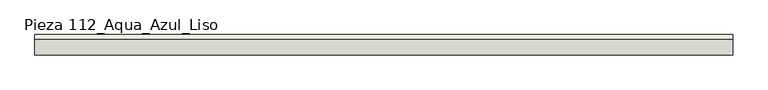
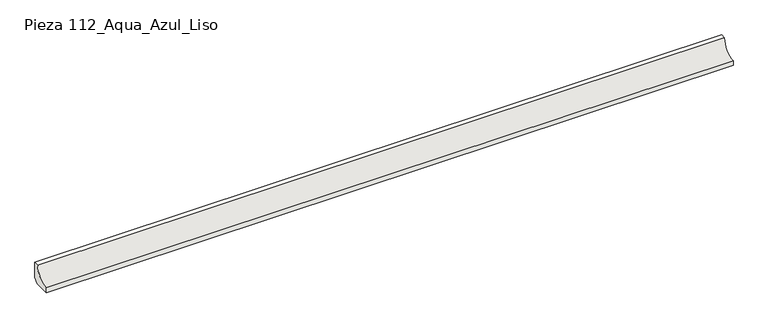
"""IFC4 building model written with IfcOpenShell, lengths in millimetres: slab geometry, ROSA GRES_112 : Pieza 112_Aqua_Azul_Liso."""

import ifcopenshell
import ifcopenshell.guid

model = None  # the IFC model being written
_history = None  # IfcOwnerHistory: only IFC2X3 demands one
_inside = {}  # id of a spatial element -> (the spatial element, [elements in it])
_under = {}  # id of a project, library or spatial element -> (it, [spatial elements below it])
_declared = {}  # id of a project -> (the project, [libraries it declares])
_typed = {}  # id of a type object -> (the type object, [elements of that type])
_made_of = {}  # id of a material, layer set ... -> (it, [elements and type objects made of it])


def new_model(schema):
    """Start an empty IFC model of exactly this schema.

    Asked for "IFC4X3", IfcOpenShell would pick the latest addendum, in which some entities
    have other attributes; the version numbers below select the first issue.
    IFC2X3 requires an IfcOwnerHistory on every rooted entity: one is made here for all.
    """
    global model, _history
    if schema == "IFC4X3":
        model = ifcopenshell.file(schema_version=(4, 3, 0, 0))
    else:
        model = ifcopenshell.file(schema=schema)
    _inside.clear()
    _under.clear()
    _declared.clear()
    _typed.clear()
    _made_of.clear()
    _history = None
    if model.schema == "IFC2X3":
        org = make("IfcOrganization", Name="unknown")
        user = make(
            "IfcPersonAndOrganization",
            ThePerson=make("IfcPerson", FamilyName="unknown"),
            TheOrganization=org,
        )
        app = make(
            "IfcApplication",
            ApplicationDeveloper=org,
            Version="unknown",
            ApplicationFullName="unknown",
            ApplicationIdentifier="unknown",
        )
        _history = make(
            "IfcOwnerHistory",
            OwningUser=user,
            OwningApplication=app,
            ChangeAction="ADDED",
            CreationDate=0,
        )
    return model


def make(cls, **values):
    """One entity of the class cls with the attributes given. An attribute that is None is left unset."""
    return model.create_entity(
        cls, **{name: value for name, value in values.items() if value is not None}
    )


def rooted(cls, **values):
    """An entity with a GlobalId (a new one), such as an element, a storey or a relation."""
    return make(cls, GlobalId=ifcopenshell.guid.new(), OwnerHistory=_history, **values)


def si_unit(unit_type, name, prefix=None):
    """IfcSIUnit, for example si_unit("LENGTHUNIT", "METRE", prefix="MILLI")."""
    return make("IfcSIUnit", UnitType=unit_type, Prefix=prefix, Name=name)


def assignment(units):
    """IfcUnitAssignment: the units of a project."""
    return None if units is None else make("IfcUnitAssignment", Units=units)


def point(xyz):
    """IfcCartesianPoint."""
    return None if xyz is None else make("IfcCartesianPoint", Coordinates=xyz)


def direction(xyz):
    """IfcDirection."""
    return None if xyz is None else make("IfcDirection", DirectionRatios=xyz)


def frame(location, z_axis=None, x_axis=None):
    """IfcAxis2Placement3D, a coordinate frame: its origin and axes. An axis left out is left unset."""
    return make(
        "IfcAxis2Placement3D",
        Location=point(location),
        Axis=direction(z_axis),
        RefDirection=direction(x_axis),
    )


def frame_2d(location, x_axis=None):
    """IfcAxis2Placement2D, a coordinate frame in the plane: its origin and x axis."""
    return make(
        "IfcAxis2Placement2D", Location=point(location), RefDirection=direction(x_axis)
    )


def origin():
    """The frame at (0, 0, 0) with its axes left unset."""
    return frame((0.0, 0.0, 0.0))


def place(relative_to, where):
    """IfcLocalPlacement: puts the frame where relative to a parent placement (None: the world)."""
    return make(
        "IfcLocalPlacement", PlacementRelTo=relative_to, RelativePlacement=where
    )


def context(
    kind, dimensions, precision=None, world=None, true_north=None, identifier=None
):
    """IfcGeometricRepresentationContext, for example the 3D "Model" context."""
    return make(
        "IfcGeometricRepresentationContext",
        ContextIdentifier=identifier,
        ContextType=kind,
        CoordinateSpaceDimension=dimensions,
        Precision=precision,
        WorldCoordinateSystem=world,
        TrueNorth=true_north,
    )


def project(units=None, contexts=None):
    """IfcProject with its units and contexts."""
    return rooted(
        "IfcProject",
        Name="project",
        RepresentationContexts=contexts,
        UnitsInContext=assignment(units),
    )


def spatial(cls, under=None, at=None, **own):
    """A site, building, storey or space (cls), placed at a placement, below another one or the project."""
    s = rooted(cls, ObjectPlacement=at, **own)
    if under is not None:
        _under.setdefault(under.id(), (under, []))[1].append(s)
    return s


def polyline(points):
    """IfcPolyline through the points."""
    return make("IfcPolyline", Points=[point(p) for p in points])


def circle_curve(where, radius):
    """IfcCircle in the frame where."""
    return make("IfcCircle", Position=where, Radius=radius)


def trimmed(basis, trim1, trim2, sense, master):
    """IfcTrimmedCurve: the piece of a basis curve between two trims."""
    return make(
        "IfcTrimmedCurve",
        BasisCurve=basis,
        Trim1=trim1,
        Trim2=trim2,
        SenseAgreement=sense,
        MasterRepresentation=master,
    )


def segment(curve, same_sense, transition):
    """IfcCompositeCurveSegment."""
    return make(
        "IfcCompositeCurveSegment",
        Transition=transition,
        SameSense=same_sense,
        ParentCurve=curve,
    )


def composite_curve(segments, self_intersect=None):
    """IfcCompositeCurve: segments joined end to end."""
    return make("IfcCompositeCurve", Segments=segments, SelfIntersect=self_intersect)


def outline(outer, holes=None, kind="AREA"):
    """IfcArbitraryClosedProfileDef: a profile drawn as a closed curve; with holes, ...WithVoids."""
    if holes is None:
        return make("IfcArbitraryClosedProfileDef", ProfileType=kind, OuterCurve=outer)
    return make(
        "IfcArbitraryProfileDefWithVoids",
        ProfileType=kind,
        OuterCurve=outer,
        InnerCurves=holes,
    )


def extrude(swept, where, along, depth):
    """IfcExtrudedAreaSolid: the profile swept, set in the frame where, extruded along a direction by depth."""
    return make(
        "IfcExtrudedAreaSolid",
        SweptArea=swept,
        Position=where,
        ExtrudedDirection=direction(along),
        Depth=depth,
    )


def shape(context_of_items, identifier, shape_type, items):
    """IfcShapeRepresentation: the items that make up one representation, for example the "Body"."""
    return make(
        "IfcShapeRepresentation",
        ContextOfItems=context_of_items,
        RepresentationIdentifier=identifier,
        RepresentationType=shape_type,
        Items=items,
    )


def source(mapping_origin, context_of_items, identifier, shape_type, items):
    """IfcRepresentationMap: a shape defined once, which mapped items show again and again."""
    return make(
        "IfcRepresentationMap",
        MappingOrigin=mapping_origin,
        MappedRepresentation=shape(context_of_items, identifier, shape_type, items),
    )


def transform(
    local_origin,
    x_axis=None,
    y_axis=None,
    z_axis=None,
    scale=None,
    scale2=None,
    scale3=None,
    uniform=True,
):
    """IfcCartesianTransformationOperator3D, or its non-uniform kind. x_axis, y_axis, z_axis: its Axis1, 2, 3."""
    if uniform:
        return make(
            "IfcCartesianTransformationOperator3D",
            Axis1=direction(x_axis),
            Axis2=direction(y_axis),
            LocalOrigin=point(local_origin),
            Scale=scale,
            Axis3=direction(z_axis),
        )
    return make(
        "IfcCartesianTransformationOperator3DnonUniform",
        Axis1=direction(x_axis),
        Axis2=direction(y_axis),
        LocalOrigin=point(local_origin),
        Scale=scale,
        Axis3=direction(z_axis),
        Scale2=scale2,
        Scale3=scale3,
    )


def mapped(mapping_source, mapping_target):
    """IfcMappedItem: shows the shape of a source again, moved by a transform."""
    return make(
        "IfcMappedItem", MappingSource=mapping_source, MappingTarget=mapping_target
    )


def made_of(thing, what):
    """Note that an element or type object is made of a material, layer set ...; save() writes the relation."""
    if what is not None:
        _made_of.setdefault(what.id(), (what, []))[1].append(thing)
    return thing


def element(
    cls,
    number,
    at=None,
    inside=None,
    cuts=None,
    type_object=None,
    material=None,
    context=None,
    identifier="Body",
    shape_type=None,
    held_by="IfcProductDefinitionShape",
    body=None,
    shapes=None,
    **own,
):
    """One element of the class cls, such as IfcWall. Its Tag is "e" and its number.

    at: its placement. inside: the storey or other place that contains it. cuts: it is an
    opening in that element (IfcRelVoidsElement). A single representation is given by context,
    identifier, shape_type and body (its items); several are given by shapes. held_by: the class
    of the entity that holds the representations. save() writes the other relations.
    """
    e = rooted(cls, Tag="e%d" % number, ObjectPlacement=at, **own)
    if body is not None:
        shapes = [shape(context, identifier, shape_type, body)]
    if shapes is not None:
        e.Representation = make(held_by, Representations=shapes)
    if inside is not None:
        _inside.setdefault(inside.id(), (inside, []))[1].append(e)
    if cuts is not None:
        rooted(
            "IfcRelVoidsElement", RelatingBuildingElement=cuts, RelatedOpeningElement=e
        )
    if type_object is not None:
        _typed.setdefault(type_object.id(), (type_object, []))[1].append(e)
    return made_of(e, material)


def aggregate(whole, parts):
    """IfcRelAggregates: a whole, such as a stair, and the parts it consists of."""
    return rooted("IfcRelAggregates", RelatingObject=whole, RelatedObjects=parts)


def save(model, path):
    """Write the relations noted so far, then the file.

    IfcRelAggregates (storeys below a building ...), IfcRelContainedInSpatialStructure (elements
    in a storey), IfcRelDefinesByType, IfcRelAssociatesMaterial and IfcRelDeclares: one each for
    every whole, place, type object, material and project.
    """
    for whole, parts in _under.values():
        aggregate(whole, parts)
    for where, things in _inside.values():
        rooted(
            "IfcRelContainedInSpatialStructure",
            RelatedElements=things,
            RelatingStructure=where,
        )
    for kind, things in _typed.values():
        rooted("IfcRelDefinesByType", RelatedObjects=things, RelatingType=kind)
    for what, things in _made_of.values():
        rooted("IfcRelAssociatesMaterial", RelatedObjects=things, RelatingMaterial=what)
    for by, libraries in _declared.values():
        rooted("IfcRelDeclares", RelatingContext=by, RelatedDefinitions=libraries)
    model.write(path)


def pieza_112_aqua_azul_liso_b1956d64(model_context):
    return source(origin(), model_context, "Body", "SweptSolid", [
        extrude(outline(composite_curve([segment(polyline([(0.0, 8.7114978), (-8.7114978, 0.0), (-40.0, 0.0), (-40.0, 9.9734114)]), True, "CONTINUOUS"), segment(trimmed(circle_curve(frame_2d((-39.9955547, 39.9955547)), 30.0221435), [point((-40.0, 9.9734114))], [point((-9.9734114, 40.0))], True, "CARTESIAN"), True, "CONTINUOUS"), segment(polyline([(-9.9734114, 40.0), (0.0, 40.0), (0.0, 8.7114978)]), True, "CONTINUOUS")], self_intersect=False)), frame((0.0, 0.0, 0.0), z_axis=(1.0, 0.0, 0.0), x_axis=(0.0, 1.0, 0.0)), (0.0, 0.0, 1.0), 1376.5377055),
    ])


if __name__ == "__main__":
    model = new_model("IFC4")
    model_context = context("Model", 3, world=origin())
    ifc_project = project(units=[si_unit("LENGTHUNIT", "METRE", prefix="MILLI")], contexts=[model_context])
    site = spatial("IfcSite", under=ifc_project)
    building = spatial("IfcBuilding", under=site)
    placement = place(None, origin())
    pieza_112_aqua_azul_liso_shape = pieza_112_aqua_azul_liso_b1956d64(model_context)
    element("IfcSlab", 1, ObjectType="ROSA GRES_112 : Pieza 112_Aqua_Azul_Liso", at=placement, inside=building, context=model_context, shape_type="MappedRepresentation", body=[
        mapped(pieza_112_aqua_azul_liso_shape, transform((0.0, 0.0, 0.0), x_axis=(1.0, 0.0, 0.0), y_axis=(0.0, 1.0, 0.0), z_axis=(0.0, 0.0, 1.0))),
    ])
    save(model, "model.ifc")
